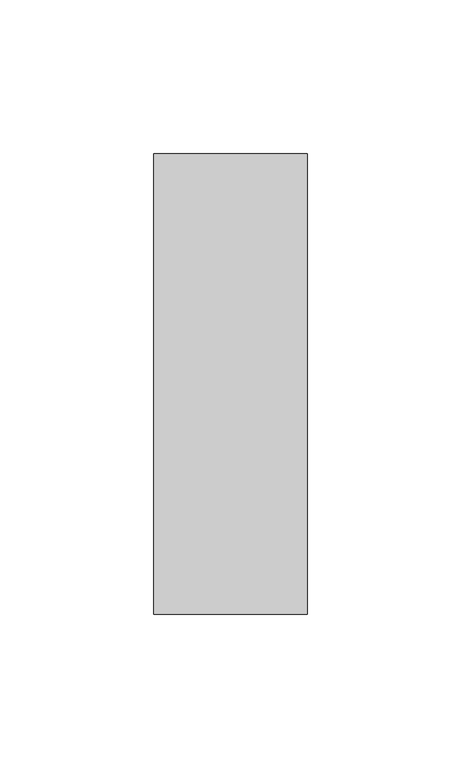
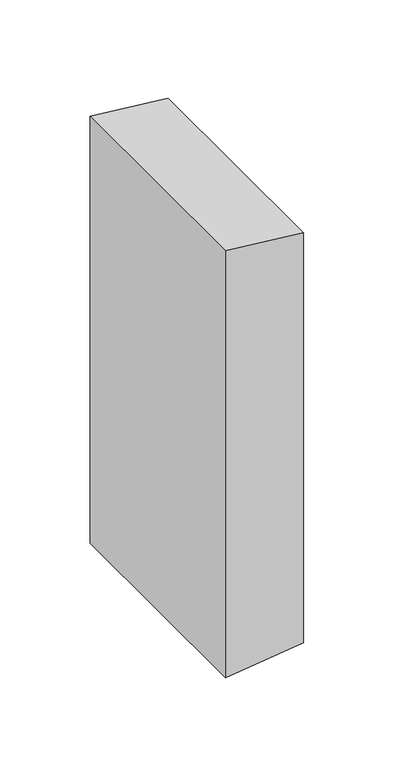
"""IFC4 building model written with IfcOpenShell, lengths in millimetres: member geometry, Прямоугольный импост : 50 x 150 мм."""

from ifc_helpers import new_model, si_unit, frame, origin, place, context, project, spatial, polyline, outline, extrude, source, transform, mapped, element, save


def member_e6abb4c7(model_context):
    return source(origin(), model_context, "Body", "SweptSolid", [
        extrude(outline(polyline([(0.0, 0.0), (5.5094769, -50.0), (-283.2796254, -50.0), (-277.0329578, 0.0), (0.0, 0.0)])), frame((0.0, -75.0, 0.0), z_axis=(0.0, 1.0, 0.0), x_axis=(0.0, 0.0, 1.0)), (0.0, 0.0, 1.0), 150.0),
    ])


if __name__ == "__main__":
    model = new_model("IFC4")
    model_context = context("Model", 3, world=origin())
    ifc_project = project(units=[si_unit("LENGTHUNIT", "METRE", prefix="MILLI")], contexts=[model_context])
    site = spatial("IfcSite", under=ifc_project)
    building = spatial("IfcBuilding", under=site)
    placement = place(None, origin())
    member_shape = member_e6abb4c7(model_context)
    element("IfcMember", 1, ObjectType="Прямоугольный импост : 50 x 150 мм", at=placement, inside=building, context=model_context, shape_type="MappedRepresentation", body=[
        mapped(member_shape, transform((0.0, 0.0, 0.0), x_axis=(1.0, 0.0, 0.0), y_axis=(0.0, 1.0, 0.0), z_axis=(0.0, 0.0, 1.0))),
    ])
    save(model, "model.ifc")
